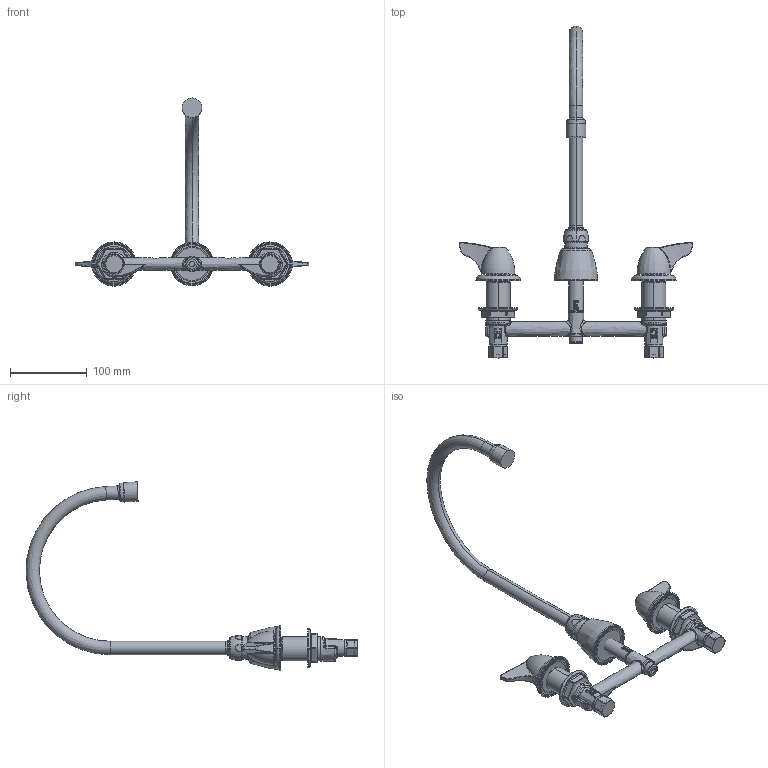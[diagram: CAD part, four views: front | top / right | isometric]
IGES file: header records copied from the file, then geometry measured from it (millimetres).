
Start section:  PTC IGES file: 201-AGN8AE3VPA1000CP_REV061311.igs
Global section: file name: 201-AGN8AE3VPA1000CP_REV061311.igs; native system: Pro/ENGINEER by Parametric Technology Corporation; preprocessor: 2010230; author: sdmitruk; organization: Unknown; date: 20110613.151054; units: inch
Bounding box: 304.8 x 432.59 x 245.4 mm (x, y, z)
Surface area: 129596.9 mm2 (no closed solid volume)
Topology: 0 solids, 0 shells, 715 faces, 4941 edges, 6579 vertices
Faces by surface type: revolution 366, bspline 349
